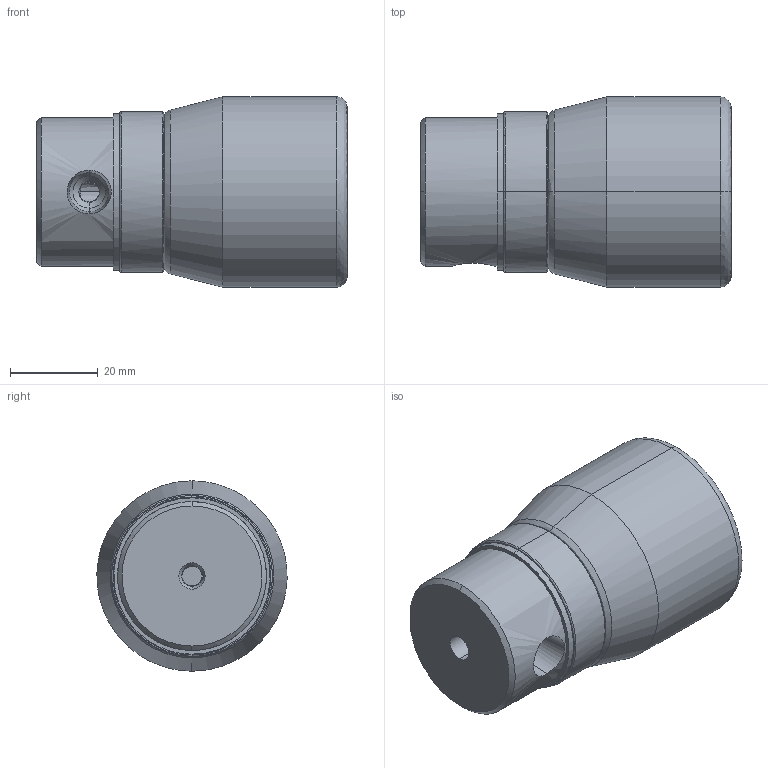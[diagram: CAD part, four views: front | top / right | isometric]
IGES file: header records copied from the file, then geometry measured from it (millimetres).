
Start section: ------------------------------------------------------------------------
Global section: file name: D:\ICADMX\tmp\trans3d_spg\TGMX25.1844.RBP035TCA_23364.igs; native system: spGate; preprocessor: ver11.3.7; author: Unknown; organization: Unknown; date: 150330.151318; units: millimetre
Bounding box: 71 x 43.46 x 43.5 mm (x, y, z)
Volume: 83791.1 mm3; surface area: 12545.3 mm2
Topology: 1 solids, 1 shells, 47 faces, 104 edges, 63 vertices
Faces by surface type: bspline 47
